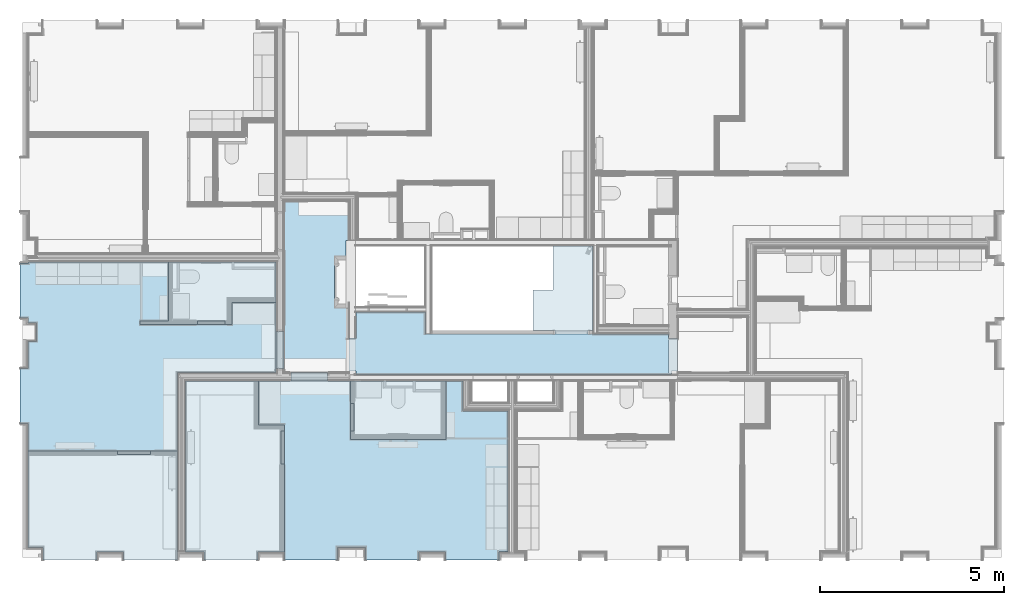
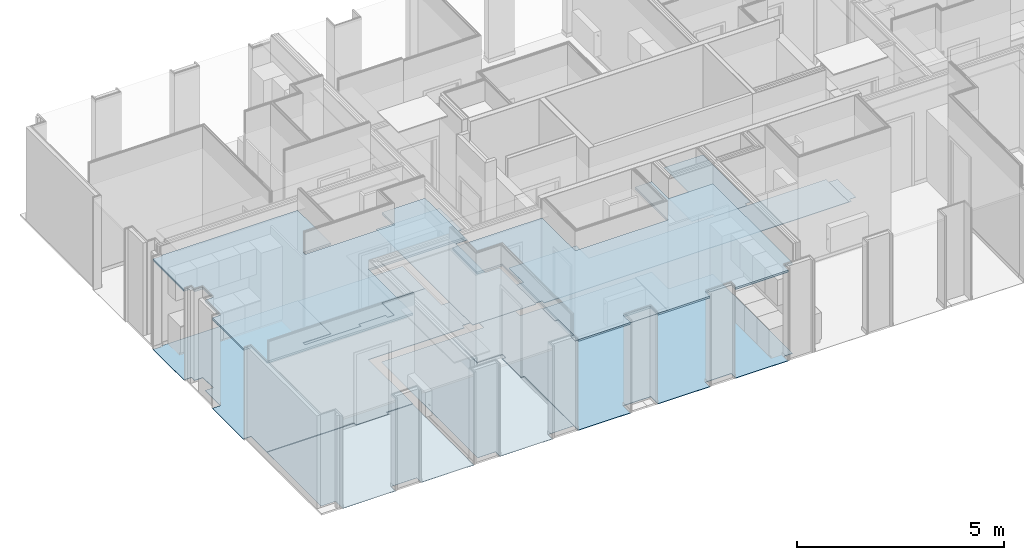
# One storey, part 44 of 65: 11 slabs.
"""IFC2X3 building model written with IfcOpenShell, lengths in metres."""

import ifcopenshell
import ifcopenshell.guid

model = None  # the IFC model being written
_history = None  # IfcOwnerHistory: only IFC2X3 demands one
_inside = {}  # id of a spatial element -> (the spatial element, [elements in it])
_under = {}  # id of a project, library or spatial element -> (it, [spatial elements below it])
_declared = {}  # id of a project -> (the project, [libraries it declares])
_typed = {}  # id of a type object -> (the type object, [elements of that type])
_made_of = {}  # id of a material, layer set ... -> (it, [elements and type objects made of it])


def new_model(schema):
    """Start an empty IFC model of exactly this schema.

    Asked for "IFC4X3", IfcOpenShell would pick the latest addendum, in which some entities
    have other attributes; the version numbers below select the first issue.
    IFC2X3 requires an IfcOwnerHistory on every rooted entity: one is made here for all.
    """
    global model, _history
    if schema == "IFC4X3":
        model = ifcopenshell.file(schema_version=(4, 3, 0, 0))
    else:
        model = ifcopenshell.file(schema=schema)
    _inside.clear()
    _under.clear()
    _declared.clear()
    _typed.clear()
    _made_of.clear()
    _history = None
    if model.schema == "IFC2X3":
        org = make("IfcOrganization", Name="unknown")
        user = make(
            "IfcPersonAndOrganization",
            ThePerson=make("IfcPerson", FamilyName="unknown"),
            TheOrganization=org,
        )
        app = make(
            "IfcApplication",
            ApplicationDeveloper=org,
            Version="unknown",
            ApplicationFullName="unknown",
            ApplicationIdentifier="unknown",
        )
        _history = make(
            "IfcOwnerHistory",
            OwningUser=user,
            OwningApplication=app,
            ChangeAction="ADDED",
            CreationDate=0,
        )
    return model


def make(cls, **values):
    """One entity of the class cls with the attributes given. An attribute that is None is left unset."""
    return model.create_entity(
        cls, **{name: value for name, value in values.items() if value is not None}
    )


def entity(cls, *values):
    """Any entity or typed value of the class cls, its attributes in the order of the schema. None: left unset."""
    e = model.create_entity(cls)
    for i, value in enumerate(values):
        if value is not None:
            e[i] = value
    return e


def rooted(cls, **values):
    """An entity with a GlobalId (a new one), such as an element, a storey or a relation."""
    return make(cls, GlobalId=ifcopenshell.guid.new(), OwnerHistory=_history, **values)


def si_unit(unit_type, name, prefix=None):
    """IfcSIUnit, for example si_unit("LENGTHUNIT", "METRE", prefix="MILLI")."""
    return make("IfcSIUnit", UnitType=unit_type, Prefix=prefix, Name=name)


def converted_unit(unit_type, name, factor, base, dimensions=None, offset=None):
    """IfcConversionBasedUnit, such as the inch: factor (a typed value) times the base unit."""
    return make(
        "IfcConversionBasedUnit"
        if offset is None
        else "IfcConversionBasedUnitWithOffset",
        ConversionOffset=offset,
        Dimensions=None
        if dimensions is None
        else entity("IfcDimensionalExponents", *dimensions),
        UnitType=unit_type,
        Name=name,
        ConversionFactor=make(
            "IfcMeasureWithUnit", ValueComponent=factor, UnitComponent=base
        ),
    )


def derived_unit(unit_type, elements):
    """IfcDerivedUnit: a product of units, each with its exponent."""
    return make(
        "IfcDerivedUnit",
        Elements=[
            make("IfcDerivedUnitElement", Unit=unit, Exponent=power)
            for unit, power in elements
        ],
        UnitType=unit_type,
    )


def money_unit(currency):
    """IfcMonetaryUnit."""
    return make("IfcMonetaryUnit", Currency=currency)


def assignment(units):
    """IfcUnitAssignment: the units of a project."""
    return None if units is None else make("IfcUnitAssignment", Units=units)


def point(xyz):
    """IfcCartesianPoint."""
    return None if xyz is None else make("IfcCartesianPoint", Coordinates=xyz)


def direction(xyz):
    """IfcDirection."""
    return None if xyz is None else make("IfcDirection", DirectionRatios=xyz)


def frame(location, z_axis=None, x_axis=None):
    """IfcAxis2Placement3D, a coordinate frame: its origin and axes. An axis left out is left unset."""
    return make(
        "IfcAxis2Placement3D",
        Location=point(location),
        Axis=direction(z_axis),
        RefDirection=direction(x_axis),
    )


def origin_with_axes():
    """The frame at (0, 0, 0) with the z axis (0, 0, 1) and the x axis (1, 0, 0) written out."""
    return frame((0.0, 0.0, 0.0), z_axis=(0.0, 0.0, 1.0), x_axis=(1.0, 0.0, 0.0))


def place(relative_to, where):
    """IfcLocalPlacement: puts the frame where relative to a parent placement (None: the world)."""
    return make(
        "IfcLocalPlacement", PlacementRelTo=relative_to, RelativePlacement=where
    )


def context(
    kind, dimensions, precision=None, world=None, true_north=None, identifier=None
):
    """IfcGeometricRepresentationContext, for example the 3D "Model" context."""
    return make(
        "IfcGeometricRepresentationContext",
        ContextIdentifier=identifier,
        ContextType=kind,
        CoordinateSpaceDimension=dimensions,
        Precision=precision,
        WorldCoordinateSystem=world,
        TrueNorth=true_north,
    )


def subcontext(parent, identifier, kind, view, scale=None):
    """IfcGeometricRepresentationSubContext, for example "Body" below "Model"."""
    return make(
        "IfcGeometricRepresentationSubContext",
        ContextIdentifier=identifier,
        ContextType=kind,
        ParentContext=parent,
        TargetScale=scale,
        TargetView=view,
    )


def project(units=None, contexts=None):
    """IfcProject with its units and contexts."""
    return rooted(
        "IfcProject",
        Name="project",
        RepresentationContexts=contexts,
        UnitsInContext=assignment(units),
    )


def spatial(cls, under=None, at=None, **own):
    """A site, building, storey or space (cls), placed at a placement, below another one or the project."""
    s = rooted(cls, ObjectPlacement=at, **own)
    if under is not None:
        _under.setdefault(under.id(), (under, []))[1].append(s)
    return s


def faces_of(points, faces, orient=None, outer=None):
    """IfcFace entities. A face is a list of loops; a loop is a list of indices into points, from 0.

    orient and outer hold one flag for each loop. By default every Orientation is true, the
    first loop of a face is its IfcFaceOuterBound and the others are IfcFaceBound.
    """
    made = []
    for i, loops in enumerate(faces):
        bounds = []
        for j, loop in enumerate(loops):
            is_outer = j == 0 if outer is None else outer[i][j]
            bounds.append(
                make(
                    "IfcFaceOuterBound" if is_outer else "IfcFaceBound",
                    Bound=make("IfcPolyLoop", Polygon=[points[k] for k in loop]),
                    Orientation=True if orient is None else orient[i][j],
                )
            )
        made.append(make("IfcFace", Bounds=bounds))
    return made


def faceted_brep(points, faces, orient=None, outer=None, voids=None):
    """IfcFacetedBrep: a solid bounded by flat faces; with voids (closed shells), ...WithVoids."""
    shared = [point(p) for p in points]
    hull = make("IfcClosedShell", CfsFaces=faces_of(shared, faces, orient, outer))
    if voids is None:
        return make("IfcFacetedBrep", Outer=hull)
    return make(
        "IfcFacetedBrepWithVoids",
        Outer=hull,
        Voids=[
            make(cls, CfsFaces=faces_of(shared, fs, o, b)) for cls, fs, o, b in voids
        ],
    )


def shape(context_of_items, identifier, shape_type, items):
    """IfcShapeRepresentation: the items that make up one representation, for example the "Body"."""
    return make(
        "IfcShapeRepresentation",
        ContextOfItems=context_of_items,
        RepresentationIdentifier=identifier,
        RepresentationType=shape_type,
        Items=items,
    )


def material(Name=None, Category=None):
    """IfcMaterial."""
    return make("IfcMaterial", Name=Name, Category=Category)


def made_of(thing, what):
    """Note that an element or type object is made of a material, layer set ...; save() writes the relation."""
    if what is not None:
        _made_of.setdefault(what.id(), (what, []))[1].append(thing)
    return thing


def type_object(cls, material=None, **own):
    """A type object (cls), such as IfcWallType, which elements share."""
    return made_of(rooted(cls, **own), material)


def element(
    cls,
    number,
    at=None,
    inside=None,
    cuts=None,
    type_object=None,
    material=None,
    context=None,
    identifier="Body",
    shape_type=None,
    held_by="IfcProductDefinitionShape",
    body=None,
    shapes=None,
    **own,
):
    """One element of the class cls, such as IfcWall. Its Tag is "e" and its number.

    at: its placement. inside: the storey or other place that contains it. cuts: it is an
    opening in that element (IfcRelVoidsElement). A single representation is given by context,
    identifier, shape_type and body (its items); several are given by shapes. held_by: the class
    of the entity that holds the representations. save() writes the other relations.
    """
    e = rooted(cls, Tag="e%d" % number, ObjectPlacement=at, **own)
    if body is not None:
        shapes = [shape(context, identifier, shape_type, body)]
    if shapes is not None:
        e.Representation = make(held_by, Representations=shapes)
    if inside is not None:
        _inside.setdefault(inside.id(), (inside, []))[1].append(e)
    if cuts is not None:
        rooted(
            "IfcRelVoidsElement", RelatingBuildingElement=cuts, RelatedOpeningElement=e
        )
    if type_object is not None:
        _typed.setdefault(type_object.id(), (type_object, []))[1].append(e)
    return made_of(e, material)


def aggregate(whole, parts):
    """IfcRelAggregates: a whole, such as a stair, and the parts it consists of."""
    return rooted("IfcRelAggregates", RelatingObject=whole, RelatedObjects=parts)


def save(model, path):
    """Write the relations noted so far, then the file.

    IfcRelAggregates (storeys below a building ...), IfcRelContainedInSpatialStructure (elements
    in a storey), IfcRelDefinesByType, IfcRelAssociatesMaterial and IfcRelDeclares: one each for
    every whole, place, type object, material and project.
    """
    for whole, parts in _under.values():
        aggregate(whole, parts)
    for where, things in _inside.values():
        rooted(
            "IfcRelContainedInSpatialStructure",
            RelatedElements=things,
            RelatingStructure=where,
        )
    for kind, things in _typed.values():
        rooted("IfcRelDefinesByType", RelatedObjects=things, RelatingType=kind)
    for what, things in _made_of.values():
        rooted("IfcRelAssociatesMaterial", RelatedObjects=things, RelatingMaterial=what)
    for by, libraries in _declared.values():
        rooted("IfcRelDeclares", RelatingContext=by, RelatedDefinitions=libraries)
    model.write(path)


model = new_model("IFC2X3")

# Units and contexts
model_context = context("Model", 3, precision=1e-05, world=origin_with_axes(), true_north=direction((0.0, 1.0)))
body_context = subcontext(model_context, "Body", "Model", "MODEL_VIEW", scale=1.0)
ifc_project = project(units=[si_unit("LENGTHUNIT", "METRE"), si_unit("AREAUNIT", "SQUARE_METRE"), si_unit("VOLUMEUNIT", "CUBIC_METRE"), si_unit("ABSORBEDDOSEUNIT", "GRAY"), si_unit("AMOUNTOFSUBSTANCEUNIT", "MOLE"), si_unit("DOSEEQUIVALENTUNIT", "SIEVERT"), si_unit("ELECTRICCAPACITANCEUNIT", "FARAD"), si_unit("ELECTRICCHARGEUNIT", "COULOMB"), si_unit("ELECTRICCONDUCTANCEUNIT", "SIEMENS"), si_unit("ELECTRICCURRENTUNIT", "AMPERE"), si_unit("ELECTRICRESISTANCEUNIT", "OHM"), si_unit("ELECTRICVOLTAGEUNIT", "VOLT"), si_unit("ENERGYUNIT", "JOULE"), si_unit("FORCEUNIT", "NEWTON"), si_unit("FREQUENCYUNIT", "HERTZ"), si_unit("ILLUMINANCEUNIT", "LUX"), si_unit("INDUCTANCEUNIT", "HENRY"), si_unit("LUMINOUSFLUXUNIT", "LUMEN"), si_unit("LUMINOUSINTENSITYUNIT", "CANDELA"), si_unit("MAGNETICFLUXDENSITYUNIT", "TESLA"), si_unit("MAGNETICFLUXUNIT", "WEBER"), si_unit("MASSUNIT", "GRAM"), converted_unit("PLANEANGLEUNIT", "degree", entity("IfcReal", 0.0174532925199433), si_unit("PLANEANGLEUNIT", "RADIAN"), dimensions=[0, 0, 0, 0, 0, 0, 0]), si_unit("POWERUNIT", "WATT"), si_unit("PRESSUREUNIT", "PASCAL"), si_unit("RADIOACTIVITYUNIT", "BECQUEREL"), si_unit("SOLIDANGLEUNIT", "STERADIAN"), si_unit("THERMODYNAMICTEMPERATUREUNIT", "KELVIN"), si_unit("TIMEUNIT", "SECOND"), derived_unit("ACCELERATIONUNIT", [(si_unit("LENGTHUNIT", "METRE"), 1), (si_unit("TIMEUNIT", "SECOND"), -2)]), derived_unit("ANGULARVELOCITYUNIT", [(converted_unit("PLANEANGLEUNIT", "degree", entity("IfcReal", 0.0174532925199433), si_unit("PLANEANGLEUNIT", "RADIAN"), dimensions=[0, 0, 0, 0, 0, 0, 0]), 1), (si_unit("TIMEUNIT", "SECOND"), -1)]), derived_unit("CURVATUREUNIT", [(converted_unit("PLANEANGLEUNIT", "degree", entity("IfcReal", 0.0174532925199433), si_unit("PLANEANGLEUNIT", "RADIAN"), dimensions=[0, 0, 0, 0, 0, 0, 0]), 1), (si_unit("LENGTHUNIT", "METRE"), -1)]), derived_unit("DYNAMICVISCOSITYUNIT", [(si_unit("PRESSUREUNIT", "PASCAL"), 1), (si_unit("TIMEUNIT", "SECOND"), 1)]), derived_unit("HEATFLUXDENSITYUNIT", [(si_unit("POWERUNIT", "WATT"), 1), (si_unit("LENGTHUNIT", "METRE"), -2)]), derived_unit("HEATINGVALUEUNIT", [(si_unit("ENERGYUNIT", "JOULE"), 1), (si_unit("MASSUNIT", "GRAM"), -1)]), derived_unit("INTEGERCOUNTRATEUNIT", [(si_unit("TIMEUNIT", "SECOND"), -1)]), derived_unit("IONCONCENTRATIONUNIT", [(si_unit("MASSUNIT", "GRAM"), 1), (si_unit("VOLUMEUNIT", "CUBIC_METRE"), -1)]), derived_unit("ISOTHERMALMOISTURECAPACITYUNIT", [(si_unit("VOLUMEUNIT", "CUBIC_METRE"), 1), (si_unit("MASSUNIT", "GRAM"), -1)]), derived_unit("KINEMATICVISCOSITYUNIT", [(si_unit("AREAUNIT", "SQUARE_METRE"), 1), (si_unit("TIMEUNIT", "SECOND"), -1)]), derived_unit("LINEARFORCEUNIT", [(si_unit("FORCEUNIT", "NEWTON"), 1), (si_unit("LENGTHUNIT", "METRE"), -1)]), derived_unit("LINEARMOMENTUNIT", [(si_unit("FORCEUNIT", "NEWTON"), 1), (si_unit("LENGTHUNIT", "METRE"), -1)]), derived_unit("LINEARSTIFFNESSUNIT", [(si_unit("FORCEUNIT", "NEWTON"), 1), (si_unit("LENGTHUNIT", "METRE"), -1)]), derived_unit("LINEARVELOCITYUNIT", [(si_unit("LENGTHUNIT", "METRE"), 1), (si_unit("TIMEUNIT", "SECOND"), -1)]), derived_unit("LUMINOUSINTENSITYDISTRIBUTIONUNIT", [(si_unit("LUMINOUSINTENSITYUNIT", "CANDELA"), 1), (si_unit("LUMINOUSFLUXUNIT", "LUMEN"), -1)]), derived_unit("MASSDENSITYUNIT", [(si_unit("MASSUNIT", "GRAM"), 1), (si_unit("VOLUMEUNIT", "CUBIC_METRE"), -1)]), derived_unit("MASSFLOWRATEUNIT", [(si_unit("MASSUNIT", "GRAM"), 1), (si_unit("TIMEUNIT", "SECOND"), -1)]), derived_unit("MASSPERLENGTHUNIT", [(si_unit("MASSUNIT", "GRAM"), 1), (si_unit("LENGTHUNIT", "METRE"), -1)]), derived_unit("MODULUSOFELASTICITYUNIT", [(si_unit("FORCEUNIT", "NEWTON"), 1), (si_unit("AREAUNIT", "SQUARE_METRE"), -1)]), derived_unit("MODULUSOFLINEARSUBGRADEREACTIONUNIT", [(si_unit("FORCEUNIT", "NEWTON"), 1), (si_unit("LENGTHUNIT", "METRE"), -2)]), derived_unit("MODULUSOFROTATIONALSUBGRADEREACTIONUNIT", [(si_unit("FORCEUNIT", "NEWTON"), 1), (si_unit("LENGTHUNIT", "METRE"), 1)]), derived_unit("MODULUSOFSUBGRADEREACTIONUNIT", [(si_unit("FORCEUNIT", "NEWTON"), 1), (si_unit("VOLUMEUNIT", "CUBIC_METRE"), -1)]), derived_unit("MOISTUREDIFFUSIVITYUNIT", [(si_unit("VOLUMEUNIT", "CUBIC_METRE"), 1), (si_unit("TIMEUNIT", "SECOND"), -1)]), derived_unit("MOLECULARWEIGHTUNIT", [(si_unit("MASSUNIT", "GRAM"), 1), (si_unit("AMOUNTOFSUBSTANCEUNIT", "MOLE"), -1)]), derived_unit("PLANARFORCEUNIT", [(si_unit("FORCEUNIT", "NEWTON"), 1), (si_unit("LENGTHUNIT", "METRE"), -2)]), derived_unit("ROTATIONALFREQUENCYUNIT", [(si_unit("TIMEUNIT", "SECOND"), -1)]), derived_unit("ROTATIONALMASSUNIT", [(si_unit("MASSUNIT", "GRAM"), 1), (si_unit("LENGTHUNIT", "METRE"), 2)]), derived_unit("ROTATIONALSTIFFNESSUNIT", [(si_unit("FORCEUNIT", "NEWTON"), 1), (si_unit("LENGTHUNIT", "METRE"), 1), (converted_unit("PLANEANGLEUNIT", "degree", entity("IfcReal", 0.0174532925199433), si_unit("PLANEANGLEUNIT", "RADIAN"), dimensions=[0, 0, 0, 0, 0, 0, 0]), -1)]), derived_unit("SECTIONAREAINTEGRALUNIT", [(si_unit("LENGTHUNIT", "METRE"), 5)]), derived_unit("SECTIONMODULUSUNIT", [(si_unit("LENGTHUNIT", "METRE"), 3)]), derived_unit("SHEARMODULUSUNIT", [(si_unit("FORCEUNIT", "NEWTON"), 1), (si_unit("AREAUNIT", "SQUARE_METRE"), -1)]), derived_unit("SOUNDPOWERUNIT", [(si_unit("ENERGYUNIT", "JOULE"), 1), (si_unit("TIMEUNIT", "SECOND"), -1)]), derived_unit("SPECIFICHEATCAPACITYUNIT", [(si_unit("FORCEUNIT", "NEWTON"), 1), (si_unit("MASSUNIT", "GRAM"), -1), (si_unit("THERMODYNAMICTEMPERATUREUNIT", "KELVIN"), -1)]), derived_unit("TEMPERATUREGRADIENTUNIT", [(si_unit("THERMODYNAMICTEMPERATUREUNIT", "KELVIN"), 1), (si_unit("LENGTHUNIT", "METRE"), -1)]), derived_unit("THERMALADMITTANCEUNIT", [(si_unit("POWERUNIT", "WATT"), 1), (si_unit("AREAUNIT", "SQUARE_METRE"), -1), (si_unit("THERMODYNAMICTEMPERATUREUNIT", "KELVIN"), -1)]), derived_unit("THERMALCONDUCTANCEUNIT", [(si_unit("POWERUNIT", "WATT"), 1), (si_unit("LENGTHUNIT", "METRE"), -1), (si_unit("THERMODYNAMICTEMPERATUREUNIT", "KELVIN"), -1)]), derived_unit("THERMALEXPANSIONCOEFFICIENTUNIT", [(si_unit("THERMODYNAMICTEMPERATUREUNIT", "KELVIN"), -1)]), derived_unit("THERMALRESISTANCEUNIT", [(si_unit("AREAUNIT", "SQUARE_METRE"), 1), (si_unit("POWERUNIT", "WATT"), -1)]), derived_unit("THERMALTRANSMITTANCEUNIT", [(si_unit("POWERUNIT", "WATT"), 1), (si_unit("AREAUNIT", "SQUARE_METRE"), -1), (si_unit("THERMODYNAMICTEMPERATUREUNIT", "KELVIN"), -1)]), derived_unit("TORQUEUNIT", [(si_unit("FORCEUNIT", "NEWTON"), 1), (si_unit("LENGTHUNIT", "METRE"), 1)]), derived_unit("VAPORPERMEABILITYUNIT", [(si_unit("MASSUNIT", "GRAM"), 1), (si_unit("TIMEUNIT", "SECOND"), -1)]), derived_unit("VOLUMETRICFLOWRATEUNIT", [(si_unit("VOLUMEUNIT", "CUBIC_METRE"), 1), (si_unit("TIMEUNIT", "SECOND"), -1)]), derived_unit("WARPINGCONSTANTUNIT", [(si_unit("LENGTHUNIT", "METRE"), 6)]), derived_unit("WARPINGMOMENTUNIT", [(si_unit("FORCEUNIT", "NEWTON"), 1), (si_unit("LENGTHUNIT", "METRE"), 2)]), money_unit("GBP")], contexts=[model_context])

# Site, building, storey
site_placement = place(None, origin_with_axes())
site = spatial("IfcSite", under=ifc_project, at=site_placement, Name="Site", CompositionType="ELEMENT")
building_placement = place(site_placement, origin_with_axes())
building = spatial("IfcBuilding", under=site, at=building_placement, Name="Building01", CompositionType="ELEMENT")
storey_placement = place(building_placement, frame((0.0, 0.0, 8.64), z_axis=(0.0, 0.0, 1.0), x_axis=(1.0, 0.0, 0.0)))
storey = spatial("IfcBuildingStorey", under=building, at=storey_placement, Name="2F", CompositionType="ELEMENT", Elevation=8.64)

# Slabs
ifc_material_1 = material(Name="A_BSUK_ExpandedPolystyreneBoards")
slab_type_1 = type_object("IfcSlabType", Name="A-FloorsSlabs A_BSUK_Slabs", PredefinedType="FLOOR")
placement = place(storey_placement, frame((0.0, 0.0, -8.64), z_axis=(0.0, 0.0, 1.0), x_axis=(1.0, 0.0, 0.0)))
element("IfcSlab", 1, at=placement, inside=storey, type_object=slab_type_1, material=ifc_material_1, Name="A-FloorsSlabs A_BSUK_Slabs", ObjectType="CompoundSlabLeaf", context=body_context, shape_type="Brep", body=[
    faceted_brep([(9.25, 6.15, 8.64), (9.25, 6.15, 8.643), (9.25, 6.85, 8.643), (9.25, 6.85, 8.64), (9.06, 6.15, 8.64), (9.06, 6.15, 8.643), (9.06, 5.25, 8.64), (9.06, 5.25, 8.643), (9.25, 5.25, 8.64), (9.25, 5.25, 8.643), (9.25, 5.15, 8.64), (9.25, 5.15, 8.643), (17.83, 5.15, 8.64), (17.83, 5.15, 8.643), (17.83, 5.25, 8.64), (17.83, 5.25, 8.643), (18.0, 5.25, 8.64), (18.0, 5.25, 8.643), (18.0, 6.134, 8.64), (18.0, 6.134, 8.643), (17.75, 6.134, 8.64), (17.75, 6.134, 8.643), (17.75, 6.25, 8.64), (17.75, 6.25, 8.643), (15.558, 6.25, 8.64), (15.558, 6.25, 8.643), (15.558, 6.35, 8.64), (15.558, 6.35, 8.643), (15.6, 6.35, 8.64), (15.6, 6.35, 8.643), (15.7, 6.35, 8.64), (15.7, 6.35, 8.643), (15.7, 8.65, 8.64), (15.7, 8.65, 8.643), (14.609584, 8.65, 8.64), (14.609584, 8.65, 8.643), (14.609584, 7.454282, 8.64), (14.609584, 7.454282, 8.643), (14.059316, 7.454282, 8.64), (14.059316, 7.454282, 8.643), (14.059316, 6.35, 8.64), (14.059316, 6.35, 8.643), (14.658, 6.35, 8.64), (14.658, 6.35, 8.643), (14.658, 6.25, 8.64), (14.658, 6.25, 8.643), (11.13, 6.25, 8.64), (11.13, 6.25, 8.643), (11.13, 6.85, 8.64), (11.13, 6.85, 8.643)], [[[0, 1, 2, 3]], [[4, 5, 1, 0]], [[6, 7, 5, 4]], [[8, 9, 7, 6]], [[10, 11, 9, 8]], [[12, 13, 11, 10]], [[14, 15, 13, 12]], [[16, 17, 15, 14]], [[18, 19, 17, 16]], [[20, 21, 19, 18]], [[22, 23, 21, 20]], [[24, 25, 23, 22]], [[26, 27, 25, 24]], [[28, 29, 27, 26]], [[30, 31, 29, 28]], [[32, 33, 31, 30]], [[34, 35, 33, 32]], [[36, 37, 35, 34]], [[38, 39, 37, 36]], [[40, 41, 39, 38]], [[42, 43, 41, 40]], [[44, 45, 43, 42]], [[46, 47, 45, 44]], [[48, 49, 47, 46]], [[3, 2, 49, 48]], [[1, 5, 7, 9, 11, 13, 15, 17, 19, 21, 23, 25, 27, 29, 31, 33, 35, 37, 39, 41, 43, 45, 47, 49, 2]], [[3, 48, 46, 44, 42, 40, 38, 36, 34, 32, 30, 28, 26, 24, 22, 20, 18, 16, 14, 12, 10, 8, 6, 4, 0]]]),
])
element("IfcSlab", 2, at=placement, inside=storey, type_object=slab_type_1, material=ifc_material_1, Name="A-FloorsSlabs A_BSUK_Slabs", ObjectType="CompoundSlabLeaf", context=body_context, shape_type="Brep", body=[
    faceted_brep([(12.15, 4.98, 8.64), (12.15, 4.98, 8.643), (12.15, 4.164428, 8.643), (12.15, 4.164428, 8.64), (9.0, 4.98, 8.64), (9.0, 4.98, 8.643), (8.4725, 4.98, 8.64), (8.4725, 4.98, 8.643), (8.4725, 5.205, 8.64), (8.4725, 5.205, 8.643), (7.4725, 5.205, 8.64), (7.4725, 5.205, 8.643), (7.4725, 4.98, 8.64), (7.4725, 4.98, 8.643), (4.61, 4.98, 8.64), (4.61, 4.98, 8.643), (4.61, 0.318, 8.64), (4.61, 0.318, 8.643), (5.105, 0.318, 8.64), (5.105, 0.318, 8.643), (5.105, 0.1, 8.64), (5.105, 0.1, 8.643), (6.575, 0.1, 8.64), (6.575, 0.1, 8.643), (6.575, 0.318, 8.64), (6.575, 0.318, 8.643), (7.295, 0.318, 8.64), (7.295, 0.318, 8.643), (7.295, 0.1, 8.64), (7.295, 0.1, 8.643), (8.742, 0.1, 8.64), (8.742, 0.1, 8.643), (8.742, 0.448, 8.64), (8.742, 0.448, 8.643), (9.508, 0.448, 8.64), (9.508, 0.448, 8.643), (9.508, 0.1, 8.64), (9.508, 0.1, 8.643), (10.955, 0.1, 8.64), (10.955, 0.1, 8.643), (10.955, 0.318, 8.64), (10.955, 0.318, 8.643), (11.675, 0.318, 8.64), (11.675, 0.318, 8.643), (11.675, 0.1, 8.64), (11.675, 0.1, 8.643), (13.145, 0.1, 8.64), (13.145, 0.1, 8.643), (13.145, 0.318, 8.64), (13.145, 0.318, 8.643), (13.3875, 0.318, 8.64), (13.3875, 0.318, 8.643), (13.3875, 4.164428, 8.64), (13.3875, 4.164428, 8.643)], [[[0, 1, 2, 3]], [[4, 5, 1, 0]], [[6, 7, 5, 4]], [[8, 9, 7, 6]], [[10, 11, 9, 8]], [[12, 13, 11, 10]], [[14, 15, 13, 12]], [[16, 17, 15, 14]], [[18, 19, 17, 16]], [[20, 21, 19, 18]], [[22, 23, 21, 20]], [[24, 25, 23, 22]], [[26, 27, 25, 24]], [[28, 29, 27, 26]], [[30, 31, 29, 28]], [[32, 33, 31, 30]], [[34, 35, 33, 32]], [[36, 37, 35, 34]], [[38, 39, 37, 36]], [[40, 41, 39, 38]], [[42, 43, 41, 40]], [[44, 45, 43, 42]], [[46, 47, 45, 44]], [[48, 49, 47, 46]], [[50, 51, 49, 48]], [[52, 53, 51, 50]], [[3, 2, 53, 52]], [[1, 5, 7, 9, 11, 13, 15, 17, 19, 21, 23, 25, 27, 29, 31, 33, 35, 37, 39, 41, 43, 45, 47, 49, 51, 53, 2]], [[3, 52, 50, 48, 46, 44, 42, 40, 38, 36, 34, 32, 30, 28, 26, 24, 22, 20, 18, 16, 14, 12, 10, 8, 6, 4, 0]]]),
])
element("IfcSlab", 3, at=placement, inside=storey, type_object=slab_type_1, material=ifc_material_1, Name="A-FloorsSlabs A_BSUK_Slabs", ObjectType="CompoundSlabLeaf", context=body_context, shape_type="Brep", body=[
    faceted_brep([(0.318, 8.21067, 8.64), (0.318, 8.21067, 8.643), (7.064669, 8.21067, 8.643), (7.064669, 8.21067, 8.64), (0.318, 8.185, 8.64), (0.318, 8.185, 8.643), (0.1, 8.185, 8.64), (0.1, 8.185, 8.643), (0.1, 6.69218, 8.64), (0.1, 6.69218, 8.643), (0.318, 6.69218, 8.64), (0.318, 6.69218, 8.643), (0.318, 6.548, 8.64), (0.318, 6.548, 8.643), (0.548, 6.548, 8.64), (0.548, 6.548, 8.643), (0.548, 6.052, 8.64), (0.548, 6.052, 8.643), (0.318, 6.052, 8.64), (0.318, 6.052, 8.643), (0.318, 5.315, 8.64), (0.318, 5.315, 8.643), (0.1, 5.315, 8.64), (0.1, 5.315, 8.643), (0.1, 3.82218, 8.64), (0.1, 3.82218, 8.643), (0.318, 3.82218, 8.64), (0.318, 3.82218, 8.643), (0.318, 0.448, 8.64), (0.318, 0.448, 8.643), (0.725, 0.448, 8.64), (0.725, 0.448, 8.643), (0.725, 0.1, 8.64), (0.725, 0.1, 8.643), (2.195, 0.1, 8.64), (2.195, 0.1, 8.643), (2.195, 0.318, 8.64), (2.195, 0.318, 8.643), (2.915, 0.318, 8.64), (2.915, 0.318, 8.643), (2.915, 0.1, 8.64), (2.915, 0.1, 8.643), (4.385, 0.1, 8.64), (4.385, 0.1, 8.643), (4.385, 0.318, 8.64), (4.385, 0.318, 8.643), (4.385, 5.205, 8.64), (4.385, 5.205, 8.643), (7.064669, 5.205, 8.64), (7.064669, 5.205, 8.643), (7.064669, 5.316475, 8.64), (7.064669, 5.316475, 8.643), (7.289669, 5.316475, 8.64), (7.289669, 5.316475, 8.643), (7.289669, 6.316475, 8.64), (7.289669, 6.316475, 8.643), (7.064669, 6.316475, 8.64), (7.064669, 6.316475, 8.643)], [[[0, 1, 2, 3]], [[4, 5, 1, 0]], [[6, 7, 5, 4]], [[8, 9, 7, 6]], [[10, 11, 9, 8]], [[12, 13, 11, 10]], [[14, 15, 13, 12]], [[16, 17, 15, 14]], [[18, 19, 17, 16]], [[20, 21, 19, 18]], [[22, 23, 21, 20]], [[24, 25, 23, 22]], [[26, 27, 25, 24]], [[28, 29, 27, 26]], [[30, 31, 29, 28]], [[32, 33, 31, 30]], [[34, 35, 33, 32]], [[36, 37, 35, 34]], [[38, 39, 37, 36]], [[40, 41, 39, 38]], [[42, 43, 41, 40]], [[44, 45, 43, 42]], [[46, 47, 45, 44]], [[48, 49, 47, 46]], [[50, 51, 49, 48]], [[52, 53, 51, 50]], [[54, 55, 53, 52]], [[56, 57, 55, 54]], [[3, 2, 57, 56]], [[1, 5, 7, 9, 11, 13, 15, 17, 19, 21, 23, 25, 27, 29, 31, 33, 35, 37, 39, 41, 43, 45, 47, 49, 51, 53, 55, 57, 2]], [[3, 56, 54, 52, 50, 48, 46, 44, 42, 40, 38, 36, 34, 32, 30, 28, 26, 24, 22, 20, 18, 16, 14, 12, 10, 8, 6, 4, 0]]]),
])
ifc_material_2 = material(Name="A_BSUK_Parquet_Floor")
element("IfcSlab", 4, at=placement, inside=storey, type_object=slab_type_1, material=ifc_material_2, Name="A-FloorsSlabs A_BSUK_Slabs", ObjectType="CompoundSlabLeaf", context=body_context, shape_type="Brep", body=[
    faceted_brep([(8.4725, 5.205, 8.643), (8.4725, 5.205, 8.655), (8.4725, 4.98, 8.655), (8.4725, 4.98, 8.643), (7.4725, 5.205, 8.643), (7.4725, 5.205, 8.655), (7.4725, 4.98, 8.643), (7.4725, 4.98, 8.655), (6.595, 4.98, 8.643), (6.595, 4.98, 8.655), (6.595, 3.78, 8.643), (6.595, 3.78, 8.655), (7.295, 3.78, 8.643), (7.295, 3.78, 8.655), (7.295, 3.616, 8.643), (7.295, 3.616, 8.655), (7.2, 3.616, 8.643), (7.2, 3.616, 8.655), (7.2, 2.716, 8.643), (7.2, 2.716, 8.655), (7.295, 2.716, 8.643), (7.295, 2.716, 8.655), (7.295, 0.1, 8.643), (7.295, 0.1, 8.655), (8.742, 0.1, 8.643), (8.742, 0.1, 8.655), (8.742, 0.448, 8.643), (8.742, 0.448, 8.655), (9.508, 0.448, 8.643), (9.508, 0.448, 8.655), (9.508, 0.1, 8.643), (9.508, 0.1, 8.655), (10.955, 0.1, 8.643), (10.955, 0.1, 8.655), (10.955, 0.318, 8.643), (10.955, 0.318, 8.655), (11.675, 0.318, 8.643), (11.675, 0.318, 8.655), (11.675, 0.1, 8.643), (11.675, 0.1, 8.655), (13.145, 0.1, 8.643), (13.145, 0.1, 8.655), (13.145, 0.318, 8.643), (13.145, 0.318, 8.655), (13.3875, 0.318, 8.643), (13.3875, 0.318, 8.655), (13.3875, 4.164428, 8.643), (13.3875, 4.164428, 8.655), (12.15, 4.164428, 8.643), (12.15, 4.164428, 8.655), (12.15, 4.98, 8.643), (12.15, 4.98, 8.655), (11.687536, 4.98, 8.643), (11.687536, 4.98, 8.655), (11.687536, 3.385, 8.643), (11.687536, 3.385, 8.655), (9.097536, 3.385, 8.643), (9.097536, 3.385, 8.655), (9.097536, 3.613781, 8.643), (9.097536, 3.613781, 8.655), (9.192536, 3.613781, 8.643), (9.192536, 3.613781, 8.655), (9.192536, 4.363781, 8.643), (9.192536, 4.363781, 8.655), (9.097536, 4.363781, 8.643), (9.097536, 4.363781, 8.655), (9.097536, 4.98, 8.643), (9.097536, 4.98, 8.655)], [[[0, 1, 2, 3]], [[4, 5, 1, 0]], [[6, 7, 5, 4]], [[8, 9, 7, 6]], [[10, 11, 9, 8]], [[12, 13, 11, 10]], [[14, 15, 13, 12]], [[16, 17, 15, 14]], [[18, 19, 17, 16]], [[20, 21, 19, 18]], [[22, 23, 21, 20]], [[24, 25, 23, 22]], [[26, 27, 25, 24]], [[28, 29, 27, 26]], [[30, 31, 29, 28]], [[32, 33, 31, 30]], [[34, 35, 33, 32]], [[36, 37, 35, 34]], [[38, 39, 37, 36]], [[40, 41, 39, 38]], [[42, 43, 41, 40]], [[44, 45, 43, 42]], [[46, 47, 45, 44]], [[48, 49, 47, 46]], [[50, 51, 49, 48]], [[52, 53, 51, 50]], [[54, 55, 53, 52]], [[56, 57, 55, 54]], [[58, 59, 57, 56]], [[60, 61, 59, 58]], [[62, 63, 61, 60]], [[64, 65, 63, 62]], [[66, 67, 65, 64]], [[3, 2, 67, 66]], [[1, 5, 7, 9, 11, 13, 15, 17, 19, 21, 23, 25, 27, 29, 31, 33, 35, 37, 39, 41, 43, 45, 47, 49, 51, 53, 55, 57, 59, 61, 63, 65, 67, 2]], [[3, 66, 64, 62, 60, 58, 56, 54, 52, 50, 48, 46, 44, 42, 40, 38, 36, 34, 32, 30, 28, 26, 24, 22, 20, 18, 16, 14, 12, 10, 8, 6, 4, 0]]]),
])
element("IfcSlab", 5, at=placement, inside=storey, type_object=slab_type_1, material=ifc_material_2, Name="A-FloorsSlabs A_BSUK_Slabs", ObjectType="CompoundSlabLeaf", context=body_context, shape_type="Brep", body=[
    faceted_brep([(7.289669, 6.316475, 8.643), (7.289669, 6.316475, 8.655), (7.289669, 5.316475, 8.655), (7.289669, 5.316475, 8.643), (7.064669, 6.316475, 8.643), (7.064669, 6.316475, 8.655), (7.064669, 7.111475, 8.643), (7.064669, 7.111475, 8.655), (5.864669, 7.111475, 8.643), (5.864669, 7.111475, 8.655), (5.864669, 6.511475, 8.643), (5.864669, 6.511475, 8.655), (5.679088, 6.511475, 8.643), (5.679088, 6.511475, 8.655), (5.679088, 6.606475, 8.643), (5.679088, 6.606475, 8.655), (4.929088, 6.606475, 8.643), (4.929088, 6.606475, 8.655), (4.929088, 6.511475, 8.643), (4.929088, 6.511475, 8.655), (3.37073, 6.511475, 8.643), (3.37073, 6.511475, 8.655), (3.37073, 6.606475, 8.643), (3.37073, 6.606475, 8.655), (4.14573, 6.606475, 8.643), (4.14573, 6.606475, 8.655), (4.14573, 8.21067, 8.643), (4.14573, 8.21067, 8.655), (0.318, 8.21067, 8.643), (0.318, 8.21067, 8.655), (0.318, 8.185, 8.643), (0.318, 8.185, 8.655), (0.1, 8.185, 8.643), (0.1, 8.185, 8.655), (0.1, 6.69218, 8.643), (0.1, 6.69218, 8.655), (0.318, 6.69218, 8.643), (0.318, 6.69218, 8.655), (0.318, 6.548, 8.643), (0.318, 6.548, 8.655), (0.548, 6.548, 8.643), (0.548, 6.548, 8.655), (0.548, 6.052, 8.643), (0.548, 6.052, 8.655), (0.318, 6.052, 8.643), (0.318, 6.052, 8.655), (0.318, 5.315, 8.643), (0.318, 5.315, 8.655), (0.1, 5.315, 8.643), (0.1, 5.315, 8.655), (0.1, 3.82218, 8.643), (0.1, 3.82218, 8.655), (0.318, 3.82218, 8.643), (0.318, 3.82218, 8.655), (0.318, 3.065286, 8.643), (0.318, 3.065286, 8.655), (2.751, 3.065286, 8.643), (2.751, 3.065286, 8.655), (2.751, 2.970286, 8.643), (2.751, 2.970286, 8.655), (3.651, 2.970286, 8.643), (3.651, 2.970286, 8.655), (3.651, 3.065286, 8.643), (3.651, 3.065286, 8.655), (4.385, 3.065286, 8.643), (4.385, 3.065286, 8.655), (4.385, 5.205, 8.643), (4.385, 5.205, 8.655), (7.064669, 5.205, 8.643), (7.064669, 5.205, 8.655), (7.064669, 5.316475, 8.643), (7.064669, 5.316475, 8.655)], [[[0, 1, 2, 3]], [[4, 5, 1, 0]], [[6, 7, 5, 4]], [[8, 9, 7, 6]], [[10, 11, 9, 8]], [[12, 13, 11, 10]], [[14, 15, 13, 12]], [[16, 17, 15, 14]], [[18, 19, 17, 16]], [[20, 21, 19, 18]], [[22, 23, 21, 20]], [[24, 25, 23, 22]], [[26, 27, 25, 24]], [[28, 29, 27, 26]], [[30, 31, 29, 28]], [[32, 33, 31, 30]], [[34, 35, 33, 32]], [[36, 37, 35, 34]], [[38, 39, 37, 36]], [[40, 41, 39, 38]], [[42, 43, 41, 40]], [[44, 45, 43, 42]], [[46, 47, 45, 44]], [[48, 49, 47, 46]], [[50, 51, 49, 48]], [[52, 53, 51, 50]], [[54, 55, 53, 52]], [[56, 57, 55, 54]], [[58, 59, 57, 56]], [[60, 61, 59, 58]], [[62, 63, 61, 60]], [[64, 65, 63, 62]], [[66, 67, 65, 64]], [[68, 69, 67, 66]], [[70, 71, 69, 68]], [[3, 2, 71, 70]], [[1, 5, 7, 9, 11, 13, 15, 17, 19, 21, 23, 25, 27, 29, 31, 33, 35, 37, 39, 41, 43, 45, 47, 49, 51, 53, 55, 57, 59, 61, 63, 65, 67, 69, 71, 2]], [[3, 70, 68, 66, 64, 62, 60, 58, 56, 54, 52, 50, 48, 46, 44, 42, 40, 38, 36, 34, 32, 30, 28, 26, 24, 22, 20, 18, 16, 14, 12, 10, 8, 6, 4, 0]]]),
])
ifc_material_3 = material(Name="A_BSUK_Carpet-Pile")
element("IfcSlab", 6, at=placement, inside=storey, type_object=slab_type_1, material=ifc_material_3, Name="A-FloorsSlabs A_BSUK_Slabs", ObjectType="CompoundSlabLeaf", context=body_context, shape_type="Brep", body=[
    faceted_brep([(7.289669, 9.862704, 8.643), (7.289669, 9.862704, 8.655), (9.06, 9.862704, 8.655), (9.06, 9.862704, 8.643), (7.289669, 5.205, 8.643), (7.289669, 5.205, 8.655), (9.06, 5.205, 8.643), (9.06, 5.205, 8.655), (9.06, 6.968405, 8.643), (9.06, 6.968405, 8.655), (8.658, 6.968405, 8.643), (8.658, 6.968405, 8.655), (8.658, 7.610847, 8.643), (8.658, 7.610847, 8.655), (8.658, 8.372405, 8.643), (8.658, 8.372405, 8.655), (8.975, 8.372405, 8.643), (8.975, 8.372405, 8.655), (8.975, 8.8, 8.643), (8.975, 8.8, 8.655), (9.06, 8.8, 8.643), (9.06, 8.8, 8.655)], [[[0, 1, 2, 3]], [[4, 5, 1, 0]], [[6, 7, 5, 4]], [[8, 9, 7, 6]], [[10, 11, 9, 8]], [[12, 13, 11, 10]], [[14, 15, 13, 12]], [[16, 17, 15, 14]], [[18, 19, 17, 16]], [[20, 21, 19, 18]], [[3, 2, 21, 20]], [[1, 5, 7, 9, 11, 13, 15, 17, 19, 21, 2]], [[3, 20, 18, 16, 14, 12, 10, 8, 6, 4, 0]]]),
])
element("IfcSlab", 7, at=placement, inside=storey, type_object=slab_type_1, material=ifc_material_3, Name="A-FloorsSlabs A_BSUK_Slabs", ObjectType="CompoundSlabLeaf", context=body_context, shape_type="Brep", body=[
    faceted_brep([(9.06, 5.25, 8.643), (9.06, 5.25, 8.655), (9.06, 6.15, 8.655), (9.06, 6.15, 8.643), (9.25, 5.25, 8.643), (9.25, 5.25, 8.655), (9.25, 5.15, 8.643), (9.25, 5.15, 8.655), (17.75, 5.15, 8.643), (17.75, 5.15, 8.655), (17.75, 6.25, 8.643), (17.75, 6.25, 8.655), (14.658, 6.25, 8.643), (14.658, 6.25, 8.655), (11.13, 6.25, 8.643), (11.13, 6.25, 8.655), (11.13, 6.85, 8.643), (11.13, 6.85, 8.655), (9.25, 6.85, 8.643), (9.25, 6.85, 8.655), (9.25, 6.15, 8.643), (9.25, 6.15, 8.655)], [[[0, 1, 2, 3]], [[4, 5, 1, 0]], [[6, 7, 5, 4]], [[8, 9, 7, 6]], [[10, 11, 9, 8]], [[12, 13, 11, 10]], [[14, 15, 13, 12]], [[16, 17, 15, 14]], [[18, 19, 17, 16]], [[20, 21, 19, 18]], [[3, 2, 21, 20]], [[1, 5, 7, 9, 11, 13, 15, 17, 19, 21, 2]], [[3, 20, 18, 16, 14, 12, 10, 8, 6, 4, 0]]]),
])
ifc_material_4 = material(Name="A_BSUK_CeilingSoffitFinishes_Suspended")
element("IfcSlab", 8, at=placement, inside=storey, type_object=slab_type_1, material=ifc_material_4, Name="A-FloorsSlabs A_BSUK_Slabs", ObjectType="CompoundSlabLeaf", context=body_context, shape_type="Brep", body=[
    faceted_brep([(8.6725, 4.98, 11.255), (8.6725, 4.98, 11.27), (9.097536, 4.98, 11.27), (9.097536, 4.98, 11.255), (7.6725, 4.98, 11.255), (7.6725, 4.98, 11.27), (6.595, 4.98, 11.255), (6.595, 4.98, 11.27), (6.595, 3.78, 11.255), (6.595, 3.78, 11.27), (7.295, 3.78, 11.255), (7.295, 3.78, 11.27), (7.295, 3.151781, 11.255), (7.295, 3.151781, 11.27), (7.295, 0.1, 11.255), (7.295, 0.1, 11.27), (8.742, 0.1, 11.255), (8.742, 0.1, 11.27), (8.742, 0.448, 11.255), (8.742, 0.448, 11.27), (9.508, 0.448, 11.255), (9.508, 0.448, 11.27), (9.508, 0.1, 11.255), (9.508, 0.1, 11.27), (10.955, 0.1, 11.255), (10.955, 0.1, 11.27), (10.955, 0.318, 11.255), (10.955, 0.318, 11.27), (11.675, 0.318, 11.255), (11.675, 0.318, 11.27), (11.675, 0.1, 11.255), (11.675, 0.1, 11.27), (13.13, 0.1, 11.255), (13.13, 0.1, 11.27), (13.13, 0.333, 11.255), (13.13, 0.333, 11.27), (13.3875, 0.333, 11.255), (13.3875, 0.333, 11.27), (13.3875, 4.164428, 11.255), (13.3875, 4.164428, 11.27), (12.15, 4.164428, 11.255), (12.15, 4.164428, 11.27), (12.15, 4.98, 11.255), (12.15, 4.98, 11.27), (11.687536, 4.98, 11.255), (11.687536, 4.98, 11.27), (11.687536, 3.385, 11.255), (11.687536, 3.385, 11.27), (9.097536, 3.385, 11.255), (9.097536, 3.385, 11.27)], [[[0, 1, 2, 3]], [[4, 5, 1, 0]], [[6, 7, 5, 4]], [[8, 9, 7, 6]], [[10, 11, 9, 8]], [[12, 13, 11, 10]], [[14, 15, 13, 12]], [[16, 17, 15, 14]], [[18, 19, 17, 16]], [[20, 21, 19, 18]], [[22, 23, 21, 20]], [[24, 25, 23, 22]], [[26, 27, 25, 24]], [[28, 29, 27, 26]], [[30, 31, 29, 28]], [[32, 33, 31, 30]], [[34, 35, 33, 32]], [[36, 37, 35, 34]], [[38, 39, 37, 36]], [[40, 41, 39, 38]], [[42, 43, 41, 40]], [[44, 45, 43, 42]], [[46, 47, 45, 44]], [[48, 49, 47, 46]], [[3, 2, 49, 48]], [[1, 5, 7, 9, 11, 13, 15, 17, 19, 21, 23, 25, 27, 29, 31, 33, 35, 37, 39, 41, 43, 45, 47, 49, 2]], [[3, 48, 46, 44, 42, 40, 38, 36, 34, 32, 30, 28, 26, 24, 22, 20, 18, 16, 14, 12, 10, 8, 6, 4, 0]]]),
])
element("IfcSlab", 9, at=placement, inside=storey, type_object=slab_type_1, material=ifc_material_4, Name="A-FloorsSlabs A_BSUK_Slabs", ObjectType="CompoundSlabLeaf", context=body_context, shape_type="Brep", body=[
    faceted_brep([(7.064669, 6.466475, 11.255), (7.064669, 6.466475, 11.27), (7.064669, 5.466475, 11.27), (7.064669, 5.466475, 11.255), (7.064669, 7.111475, 11.255), (7.064669, 7.111475, 11.27), (5.864669, 7.111475, 11.255), (5.864669, 7.111475, 11.27), (5.864669, 6.511475, 11.255), (5.864669, 6.511475, 11.27), (5.771088, 6.511475, 11.255), (5.771088, 6.511475, 11.27), (4.937088, 6.511475, 11.255), (4.937088, 6.511475, 11.27), (3.37073, 6.511475, 11.255), (3.37073, 6.511475, 11.27), (3.37073, 6.606475, 11.255), (3.37073, 6.606475, 11.27), (4.14573, 6.606475, 11.255), (4.14573, 6.606475, 11.27), (4.14573, 8.21067, 11.255), (4.14573, 8.21067, 11.27), (0.333, 8.21067, 11.255), (0.333, 8.21067, 11.27), (0.333, 8.17, 11.255), (0.333, 8.17, 11.27), (0.1, 8.17, 11.255), (0.1, 8.17, 11.27), (0.1, 6.69218, 11.255), (0.1, 6.69218, 11.27), (0.318, 6.69218, 11.255), (0.318, 6.69218, 11.27), (0.318, 6.548, 11.255), (0.318, 6.548, 11.27), (0.548, 6.548, 11.255), (0.548, 6.548, 11.27), (0.548, 6.052, 11.255), (0.548, 6.052, 11.27), (0.318, 6.052, 11.255), (0.318, 6.052, 11.27), (0.318, 5.315, 11.255), (0.318, 5.315, 11.27), (0.1, 5.315, 11.255), (0.1, 5.315, 11.27), (0.1, 3.82218, 11.255), (0.1, 3.82218, 11.27), (0.318, 3.82218, 11.255), (0.318, 3.82218, 11.27), (0.318, 3.065286, 11.255), (0.318, 3.065286, 11.27), (4.385, 3.065286, 11.255), (4.385, 3.065286, 11.27), (4.385, 5.205, 11.255), (4.385, 5.205, 11.27), (7.064669, 5.205, 11.255), (7.064669, 5.205, 11.27)], [[[0, 1, 2, 3]], [[4, 5, 1, 0]], [[6, 7, 5, 4]], [[8, 9, 7, 6]], [[10, 11, 9, 8]], [[12, 13, 11, 10]], [[14, 15, 13, 12]], [[16, 17, 15, 14]], [[18, 19, 17, 16]], [[20, 21, 19, 18]], [[22, 23, 21, 20]], [[24, 25, 23, 22]], [[26, 27, 25, 24]], [[28, 29, 27, 26]], [[30, 31, 29, 28]], [[32, 33, 31, 30]], [[34, 35, 33, 32]], [[36, 37, 35, 34]], [[38, 39, 37, 36]], [[40, 41, 39, 38]], [[42, 43, 41, 40]], [[44, 45, 43, 42]], [[46, 47, 45, 44]], [[48, 49, 47, 46]], [[50, 51, 49, 48]], [[52, 53, 51, 50]], [[54, 55, 53, 52]], [[3, 2, 55, 54]], [[1, 5, 7, 9, 11, 13, 15, 17, 19, 21, 23, 25, 27, 29, 31, 33, 35, 37, 39, 41, 43, 45, 47, 49, 51, 53, 55, 2]], [[3, 54, 52, 50, 48, 46, 44, 42, 40, 38, 36, 34, 32, 30, 28, 26, 24, 22, 20, 18, 16, 14, 12, 10, 8, 6, 4, 0]]]),
])
slab_type_2 = type_object("IfcSlabType", Name="A-FloorsSlabs A_BSUK_ExpandedPolystyreneBoards", PredefinedType="FLOOR")
element("IfcSlab", 10, at=placement, inside=storey, type_object=slab_type_2, material=ifc_material_1, Name="A-FloorsSlabs A_BSUK_ExpandedPolystyreneBoards", ObjectType="CompoundSlabLeaf", context=body_context, shape_type="Brep", body=[
    faceted_brep([(8.6725, 4.98, 11.27), (8.6725, 4.98, 11.32), (9.097536, 4.98, 11.32), (9.097536, 4.98, 11.27), (7.6725, 4.98, 11.27), (7.6725, 4.98, 11.32), (6.595, 4.98, 11.27), (6.595, 4.98, 11.32), (6.595, 3.78, 11.27), (6.595, 3.78, 11.32), (7.295, 3.78, 11.27), (7.295, 3.78, 11.32), (7.295, 3.151781, 11.27), (7.295, 3.151781, 11.32), (7.295, 0.1, 11.27), (7.295, 0.1, 11.32), (8.742, 0.1, 11.27), (8.742, 0.1, 11.32), (8.742, 0.448, 11.27), (8.742, 0.448, 11.32), (9.508, 0.448, 11.27), (9.508, 0.448, 11.32), (9.508, 0.1, 11.27), (9.508, 0.1, 11.32), (10.955, 0.1, 11.27), (10.955, 0.1, 11.32), (10.955, 0.318, 11.27), (10.955, 0.318, 11.32), (11.675, 0.318, 11.27), (11.675, 0.318, 11.32), (11.675, 0.1, 11.27), (11.675, 0.1, 11.32), (13.145, 0.1, 11.27), (13.145, 0.1, 11.32), (13.145, 0.318, 11.27), (13.145, 0.318, 11.32), (13.3875, 0.318, 11.27), (13.3875, 0.318, 11.32), (13.3875, 4.164428, 11.27), (13.3875, 4.164428, 11.32), (12.15, 4.164428, 11.27), (12.15, 4.164428, 11.32), (12.15, 4.98, 11.27), (12.15, 4.98, 11.32), (11.687536, 4.98, 11.27), (11.687536, 4.98, 11.32), (11.687536, 3.385, 11.27), (11.687536, 3.385, 11.32), (9.097536, 3.385, 11.27), (9.097536, 3.385, 11.32)], [[[0, 1, 2, 3]], [[4, 5, 1, 0]], [[6, 7, 5, 4]], [[8, 9, 7, 6]], [[10, 11, 9, 8]], [[12, 13, 11, 10]], [[14, 15, 13, 12]], [[16, 17, 15, 14]], [[18, 19, 17, 16]], [[20, 21, 19, 18]], [[22, 23, 21, 20]], [[24, 25, 23, 22]], [[26, 27, 25, 24]], [[28, 29, 27, 26]], [[30, 31, 29, 28]], [[32, 33, 31, 30]], [[34, 35, 33, 32]], [[36, 37, 35, 34]], [[38, 39, 37, 36]], [[40, 41, 39, 38]], [[42, 43, 41, 40]], [[44, 45, 43, 42]], [[46, 47, 45, 44]], [[48, 49, 47, 46]], [[3, 2, 49, 48]], [[1, 5, 7, 9, 11, 13, 15, 17, 19, 21, 23, 25, 27, 29, 31, 33, 35, 37, 39, 41, 43, 45, 47, 49, 2]], [[3, 48, 46, 44, 42, 40, 38, 36, 34, 32, 30, 28, 26, 24, 22, 20, 18, 16, 14, 12, 10, 8, 6, 4, 0]]]),
])
element("IfcSlab", 11, at=placement, inside=storey, type_object=slab_type_2, material=ifc_material_1, Name="A-FloorsSlabs A_BSUK_ExpandedPolystyreneBoards", ObjectType="CompoundSlabLeaf", context=body_context, shape_type="Brep", body=[
    faceted_brep([(7.064669, 6.466475, 11.27), (7.064669, 6.466475, 11.32), (7.064669, 5.466475, 11.32), (7.064669, 5.466475, 11.27), (7.064669, 7.111475, 11.27), (7.064669, 7.111475, 11.32), (5.864669, 7.111475, 11.27), (5.864669, 7.111475, 11.32), (5.864669, 6.511475, 11.27), (5.864669, 6.511475, 11.32), (5.771088, 6.511475, 11.27), (5.771088, 6.511475, 11.32), (4.937088, 6.511475, 11.27), (4.937088, 6.511475, 11.32), (3.37073, 6.511475, 11.27), (3.37073, 6.511475, 11.32), (3.37073, 6.606475, 11.27), (3.37073, 6.606475, 11.32), (4.14573, 6.606475, 11.27), (4.14573, 6.606475, 11.32), (4.14573, 8.21067, 11.27), (4.14573, 8.21067, 11.32), (0.318, 8.21067, 11.27), (0.318, 8.21067, 11.32), (0.318, 8.185, 11.27), (0.318, 8.185, 11.32), (0.1, 8.185, 11.27), (0.1, 8.185, 11.32), (0.1, 6.69218, 11.27), (0.1, 6.69218, 11.32), (0.318, 6.69218, 11.27), (0.318, 6.69218, 11.32), (0.318, 6.548, 11.27), (0.318, 6.548, 11.32), (0.548, 6.548, 11.27), (0.548, 6.548, 11.32), (0.548, 6.052, 11.27), (0.548, 6.052, 11.32), (0.318, 6.052, 11.27), (0.318, 6.052, 11.32), (0.318, 5.315, 11.27), (0.318, 5.315, 11.32), (0.1, 5.315, 11.27), (0.1, 5.315, 11.32), (0.1, 3.82218, 11.27), (0.1, 3.82218, 11.32), (0.318, 3.82218, 11.27), (0.318, 3.82218, 11.32), (0.318, 3.065286, 11.27), (0.318, 3.065286, 11.32), (4.385, 3.065286, 11.27), (4.385, 3.065286, 11.32), (4.385, 5.205, 11.27), (4.385, 5.205, 11.32), (7.064669, 5.205, 11.27), (7.064669, 5.205, 11.32)], [[[0, 1, 2, 3]], [[4, 5, 1, 0]], [[6, 7, 5, 4]], [[8, 9, 7, 6]], [[10, 11, 9, 8]], [[12, 13, 11, 10]], [[14, 15, 13, 12]], [[16, 17, 15, 14]], [[18, 19, 17, 16]], [[20, 21, 19, 18]], [[22, 23, 21, 20]], [[24, 25, 23, 22]], [[26, 27, 25, 24]], [[28, 29, 27, 26]], [[30, 31, 29, 28]], [[32, 33, 31, 30]], [[34, 35, 33, 32]], [[36, 37, 35, 34]], [[38, 39, 37, 36]], [[40, 41, 39, 38]], [[42, 43, 41, 40]], [[44, 45, 43, 42]], [[46, 47, 45, 44]], [[48, 49, 47, 46]], [[50, 51, 49, 48]], [[52, 53, 51, 50]], [[54, 55, 53, 52]], [[3, 2, 55, 54]], [[1, 5, 7, 9, 11, 13, 15, 17, 19, 21, 23, 25, 27, 29, 31, 33, 35, 37, 39, 41, 43, 45, 47, 49, 51, 53, 55, 2]], [[3, 54, 52, 50, 48, 46, 44, 42, 40, 38, 36, 34, 32, 30, 28, 26, 24, 22, 20, 18, 16, 14, 12, 10, 8, 6, 4, 0]]]),
])

save(model, "model.ifc")
